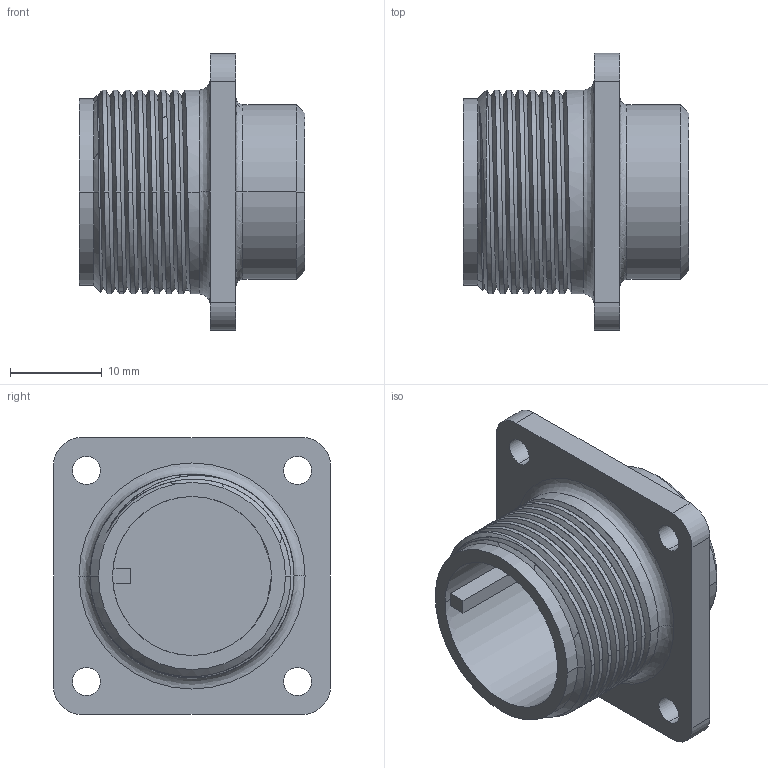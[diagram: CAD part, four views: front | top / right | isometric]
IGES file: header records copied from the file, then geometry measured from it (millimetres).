
Start section:  PTC IGES file: ms3102a_14s_shell.igs
Global section: file name: ms3102a_14s_shell.igs; native system: Creo Parametric by PTC Inc.; preprocessor: 2015290; author: j_piao; organization: Unknown; date: 20170623.142445; units: millimetre
Bounding box: 24.61 x 30.18 x 30.18 mm (x, y, z)
Surface area: 4909.4 mm2 (no closed solid volume)
Topology: 0 solids, 0 shells, 64 faces, 328 edges, 328 vertices
Faces by surface type: revolution 43, bspline 21
